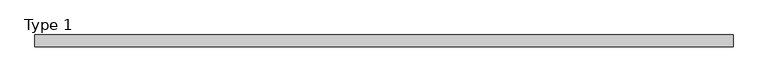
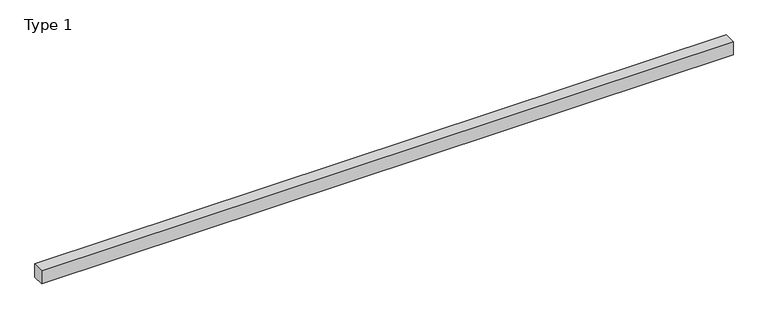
"""IFC4 building model written with IfcOpenShell, lengths in millimetres: proxy geometry, Window Header_Lentil : Type 1."""

from ifc_helpers import new_model, si_unit, frame, origin, place, context, project, spatial, polyline, outline, extrude, source, transform, mapped, element, save


def type_1_f872f524(model_context):
    return source(origin(), model_context, "Body", "SweptSolid", [
        extrude(outline(polyline([(-1119.6, 394.5), (1369.6, 394.5), (1369.6, 352.4), (-1119.6, 352.4), (-1119.6, 394.5)])), frame((0.0, 0.0, 2250.0), z_axis=(0.0, 0.0, 1.0), x_axis=(1.0, 0.0, 0.0)), (0.0, 0.0, 1.0), 50.8),
    ])


if __name__ == "__main__":
    model = new_model("IFC4")
    model_context = context("Model", 3, world=origin())
    ifc_project = project(units=[si_unit("LENGTHUNIT", "METRE", prefix="MILLI")], contexts=[model_context])
    site = spatial("IfcSite", under=ifc_project)
    building = spatial("IfcBuilding", under=site)
    placement = place(None, origin())
    type_1_shape = type_1_f872f524(model_context)
    element("IfcBuildingElementProxy", 1, Name="Window Header_Lentil : Type 1", ObjectType="Window Header_Lentil : Type 1", at=placement, inside=building, context=model_context, shape_type="MappedRepresentation", body=[
        mapped(type_1_shape, transform((0.0, 0.0, 0.0), x_axis=(1.0, 0.0, 0.0), y_axis=(0.0, 1.0, 0.0), z_axis=(0.0, 0.0, 1.0))),
    ])
    save(model, "model.ifc")
